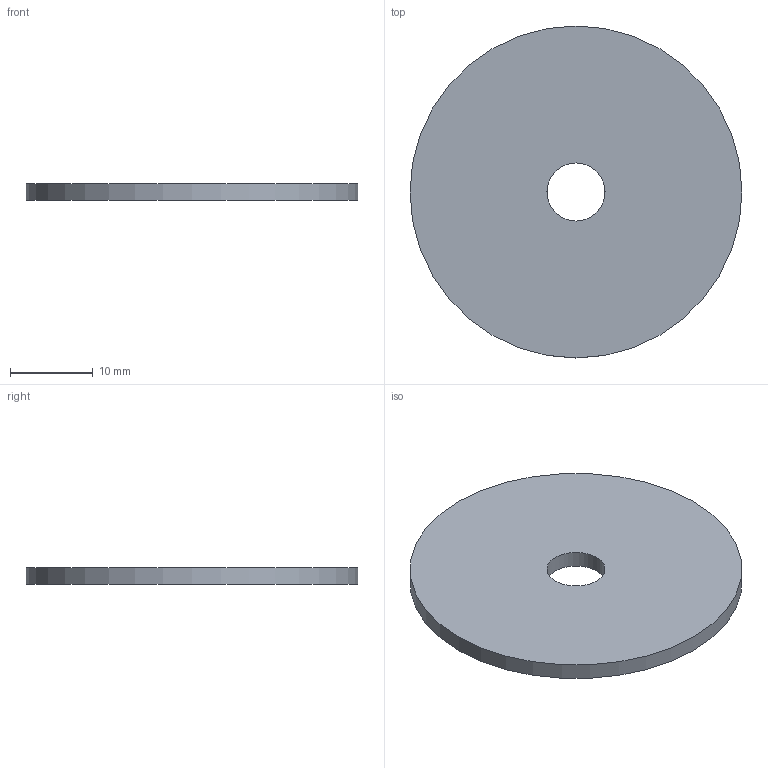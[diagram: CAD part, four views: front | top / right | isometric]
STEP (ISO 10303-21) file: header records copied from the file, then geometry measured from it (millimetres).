
FILE_DESCRIPTION(('Open CASCADE Model'),'2;1');
FILE_NAME('Open CASCADE Shape Model','2026-07-01T01:50:08',('Author'),( 'Open CASCADE'),'Open CASCADE STEP processor 7.9','Open CASCADE 7.9' ,'Unknown');
FILE_SCHEMA(('AUTOMOTIVE_DESIGN { 1 0 10303 214 1 1 1 1 }'));
Length unit declared in the file: millimetre
Products named in the file (1): Open CASCADE STEP translator 7.9 1
Bounding box: 40 x 40 x 2 mm (x, y, z)
Volume: 2436.3 mm3; surface area: 2731.6 mm2
Topology: 1 solids, 1 shells, 4 faces, 6 edges, 4 vertices
Faces by surface type: cylinder 2, plane 2
Full cylindrical faces by diameter (mm): 7 x1, 40 x1
Entity records: 186 total; most frequent: DIRECTION 32, CARTESIAN_POINT 27, ORIENTED_EDGE 12, PCURVE 12, DEFINITIONAL_REPRESENTATION 12, LINE 10, VECTOR 10, AXIS2_PLACEMENT_3D 9
